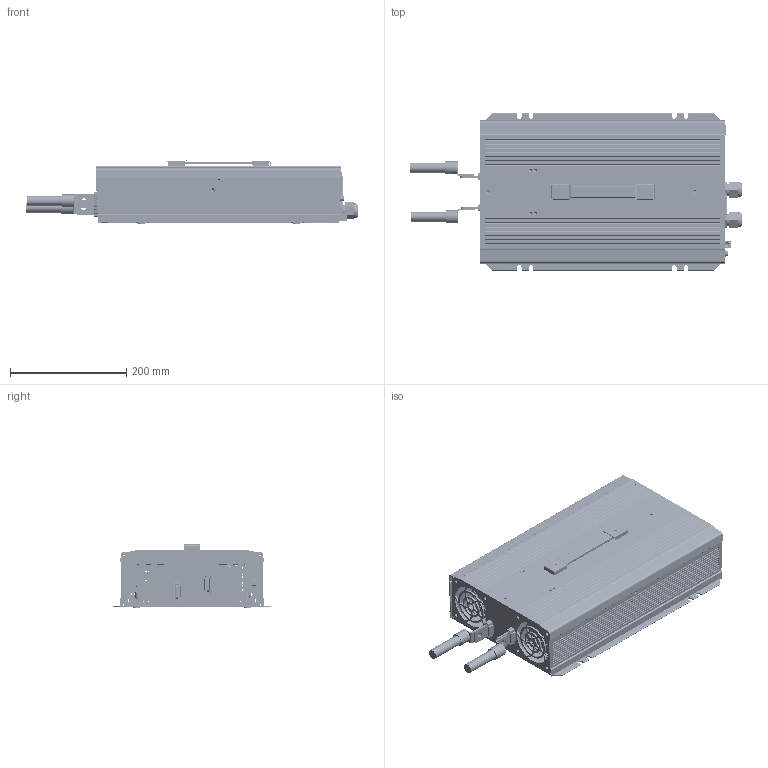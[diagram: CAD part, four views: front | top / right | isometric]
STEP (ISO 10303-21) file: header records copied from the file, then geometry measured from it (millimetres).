
FILE_DESCRIPTION(('Creo Elements/Direct Modeling STEP Export'),'2;1');
FILE_NAME('NTU-3200-UN.stp','2022-03-28T19:26:29',(''),(''),'PTC Creo Elements/Direct Modeling STEP processor for AP214 (Solid Model)','PTC Creo Elements/Direct Modeling 19.0E 27-Jun-2016 (C) Parametric Technology GmbH','');
FILE_SCHEMA(('AUTOMOTIVE_DESIGN { 1 0 10303 214 1 1 1 1 }'));
Length unit declared in the file: millimetre
Products named in the file (216): 零件9; 零件8; 零件7; 零件6; 零件5; 零件4; 零件3; 零件2; 零件12; 零件11; 零件10; 零件1; 电容; 万国插片; 万国插; open_shell.1; guwei1.1; guwei1; _S___S_O_S_JL; _S_4_X2_0192_X0__S__S_6_S___S_U; _S_4_X2_0192_X0__S_; TO220.21; TO220.9; TO220.8; TO220.7; TO220.6; TO220.5; TO220.4; TO220.3; TO220.20; TO220.2; TO220.19; TO220.18; TO220.17; TO220.16; TO220.15; TO220.14; TO220.13; TO220.12; TO220.11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
Assembly tree (123 placements, depth 2):
  零件9
  零件8
  零件7
  零件6
  零件5
    零件5
Bounding box: 570.16 x 270 x 108.65 mm (x, y, z)
Volume: 2436934.3 mm3; surface area: 2038180.9 mm2
Topology: 143 solids, 146 shells, 7136 faces, 19318 edges, 12757 vertices
Faces by surface type: plane 4362, cylinder 2378, cone 235, torus 132, bspline 16, sphere 12, extrusion 1
Entity records: 167583 total; most frequent: CARTESIAN_POINT 32002, ORIENTED_EDGE 28233, DIRECTION 25987, EDGE_CURVE 14119, VECTOR 10081, LINE 10080, VERTEX_POINT 9298, AXIS2_PLACEMENT_3D 7953
